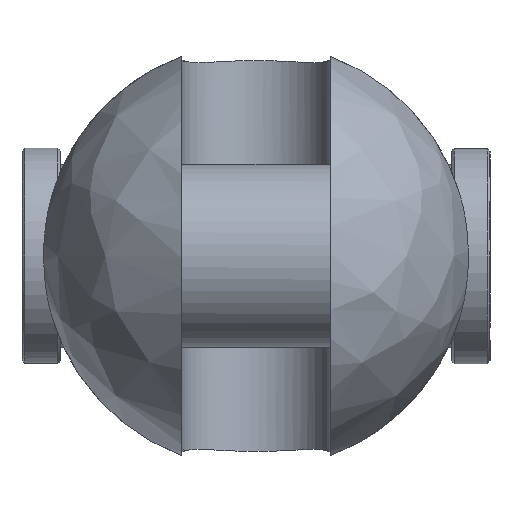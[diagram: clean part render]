
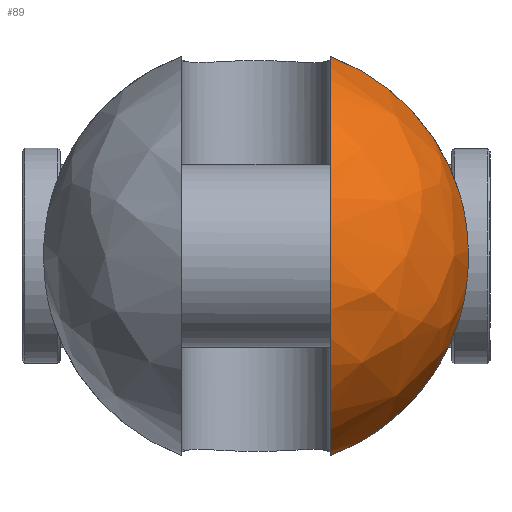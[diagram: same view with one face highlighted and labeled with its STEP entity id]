
A CAD part, left-side view. The second image highlights one B-rep face of the part: STEP entity #89.
In plain terms, the highlighted free-form (B-spline) face has degree [2, 2] with [9, 5] control points.
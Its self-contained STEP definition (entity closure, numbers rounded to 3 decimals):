
#89=ADVANCED_FACE('',(#164),#1306,.T.);
#164=FACE_OUTER_BOUND('',#249,.T.);
#249=EDGE_LOOP('',(#583,#584,#585,#586));
#583=ORIENTED_EDGE('',*,*,#809,.T.);
#584=ORIENTED_EDGE('',*,*,#835,.F.);
#585=ORIENTED_EDGE('',*,*,#847,.T.);
#586=ORIENTED_EDGE('',*,*,#827,.F.);
#809=EDGE_CURVE('',#1192,#1191,#1045,.T.);
#827=EDGE_CURVE('',#1192,#1204,#1055,.T.);
#835=EDGE_CURVE('',#1211,#1191,#1056,.T.);
#847=EDGE_CURVE('',#1211,#1204,#963,.T.);
#963=B_SPLINE_CURVE_WITH_KNOTS('',3,(#3120,#3121,#3122,#3123,#3124,#3125,
#3126,#3127,#3128,#3129,#3130,#3131,#3132,#3133),.UNSPECIFIED.,.F.,.F.,
(4,2,2,2,2,2,4),(0.,1.858,6.614,11.369,
16.125,20.881,22.739),.UNSPECIFIED.);
#1045=(
BOUNDED_CURVE()
B_SPLINE_CURVE(2,(#2904,#2905,#2906,#2907,#2908),.UNSPECIFIED.,.F.,.F.)
B_SPLINE_CURVE_WITH_KNOTS((3,2,3),(-113.272,-56.636,0.),
 .UNSPECIFIED.)
CURVE()
GEOMETRIC_REPRESENTATION_ITEM()
RATIONAL_B_SPLINE_CURVE((1.,0.707,1.,0.707,1.))
REPRESENTATION_ITEM('')
);
#1055=(
BOUNDED_CURVE()
B_SPLINE_CURVE(2,(#2990,#2991,#2992),.UNSPECIFIED.,.F.,.F.)
B_SPLINE_CURVE_WITH_KNOTS((3,3),(0.,35.864),.UNSPECIFIED.)
CURVE()
GEOMETRIC_REPRESENTATION_ITEM()
RATIONAL_B_SPLINE_CURVE((1.,0.893,1.))
REPRESENTATION_ITEM('')
);
#1056=(
BOUNDED_CURVE()
B_SPLINE_CURVE(2,(#3047,#3048,#3049),.UNSPECIFIED.,.F.,.F.)
B_SPLINE_CURVE_WITH_KNOTS((3,3),(0.,35.864),.UNSPECIFIED.)
CURVE()
GEOMETRIC_REPRESENTATION_ITEM()
RATIONAL_B_SPLINE_CURVE((1.,0.893,1.))
REPRESENTATION_ITEM('')
);
#1191=VERTEX_POINT('',#2837);
#1192=VERTEX_POINT('',#2838);
#1204=VERTEX_POINT('',#2850);
#1211=VERTEX_POINT('',#2857);
#1306=(
BOUNDED_SURFACE()
B_SPLINE_SURFACE(2,2,((#2445,#2446,#2447,#2448,#2449),(#2450,#2451,#2452,
#2453,#2454),(#2455,#2456,#2457,#2458,#2459),(#2460,#2461,#2462,#2463,#2464),
(#2465,#2466,#2467,#2468,#2469),(#2470,#2471,#2472,#2473,#2474),(#2475,
#2476,#2477,#2478,#2479),(#2480,#2481,#2482,#2483,#2484),(#2485,#2486,#2487,
#2488,#2489)),.UNSPECIFIED.,.T.,.F.,.F.)
B_SPLINE_SURFACE_WITH_KNOTS((3,2,2,2,3),(3,2,3),(0.,60.476,120.951,
181.427,241.903),(0.,60.476,120.951),
 .UNSPECIFIED.)
GEOMETRIC_REPRESENTATION_ITEM()
RATIONAL_B_SPLINE_SURFACE(((1.,0.707,1.,0.707,1.),
(0.707,0.5,0.707,0.5,0.707),(1.,0.707,
1.,0.707,1.),(0.707,0.5,0.707,0.5,0.707),
(1.,0.707,1.,0.707,1.),(0.707,0.5,0.707,
0.5,0.707),(1.,0.707,1.,0.707,1.),(0.707,
0.5,0.707,0.5,0.707),(1.,0.707,1.,0.707,
1.)))
REPRESENTATION_ITEM('')
SURFACE()
);
#2445=CARTESIAN_POINT('',(-56.,0.,0.));
#2446=CARTESIAN_POINT('',(-56.,38.5,0.));
#2447=CARTESIAN_POINT('',(-17.5,38.5,0.));
#2448=CARTESIAN_POINT('',(21.,38.5,0.));
#2449=CARTESIAN_POINT('',(21.,0.,0.));
#2450=CARTESIAN_POINT('',(-56.,0.,0.));
#2451=CARTESIAN_POINT('',(-56.,38.5,38.5));
#2452=CARTESIAN_POINT('',(-17.5,38.5,38.5));
#2453=CARTESIAN_POINT('',(21.,38.5,38.5));
#2454=CARTESIAN_POINT('',(21.,0.,0.));
#2455=CARTESIAN_POINT('',(-56.,0.,0.));
#2456=CARTESIAN_POINT('',(-56.,0.,38.5));
#2457=CARTESIAN_POINT('',(-17.5,0.,38.5));
#2458=CARTESIAN_POINT('',(21.,0.,38.5));
#2459=CARTESIAN_POINT('',(21.,0.,0.));
#2460=CARTESIAN_POINT('',(-56.,0.,0.));
#2461=CARTESIAN_POINT('',(-56.,-38.5,38.5));
#2462=CARTESIAN_POINT('',(-17.5,-38.5,38.5));
#2463=CARTESIAN_POINT('',(21.,-38.5,38.5));
#2464=CARTESIAN_POINT('',(21.,0.,0.));
#2465=CARTESIAN_POINT('',(-56.,0.,0.));
#2466=CARTESIAN_POINT('',(-56.,-38.5,0.));
#2467=CARTESIAN_POINT('',(-17.5,-38.5,0.));
#2468=CARTESIAN_POINT('',(21.,-38.5,0.));
#2469=CARTESIAN_POINT('',(21.,0.,0.));
#2470=CARTESIAN_POINT('',(-56.,0.,0.));
#2471=CARTESIAN_POINT('',(-56.,-38.5,-38.5));
#2472=CARTESIAN_POINT('',(-17.5,-38.5,-38.5));
#2473=CARTESIAN_POINT('',(21.,-38.5,-38.5));
#2474=CARTESIAN_POINT('',(21.,0.,0.));
#2475=CARTESIAN_POINT('',(-56.,0.,0.));
#2476=CARTESIAN_POINT('',(-56.,0.,-38.5));
#2477=CARTESIAN_POINT('',(-17.5,0.,-38.5));
#2478=CARTESIAN_POINT('',(21.,0.,-38.5));
#2479=CARTESIAN_POINT('',(21.,0.,0.));
#2480=CARTESIAN_POINT('',(-56.,0.,0.));
#2481=CARTESIAN_POINT('',(-56.,38.5,-38.5));
#2482=CARTESIAN_POINT('',(-17.5,38.5,-38.5));
#2483=CARTESIAN_POINT('',(21.,38.5,-38.5));
#2484=CARTESIAN_POINT('',(21.,0.,0.));
#2485=CARTESIAN_POINT('',(-56.,0.,0.));
#2486=CARTESIAN_POINT('',(-56.,38.5,0.));
#2487=CARTESIAN_POINT('',(-17.5,38.5,0.));
#2488=CARTESIAN_POINT('',(21.,38.5,0.));
#2489=CARTESIAN_POINT('',(21.,0.,0.));
#2837=CARTESIAN_POINT('',(-17.5,-13.5,-36.056));
#2838=CARTESIAN_POINT('',(-17.5,-13.5,36.056));
#2850=CARTESIAN_POINT('',(-17.5,-36.99,10.677));
#2857=CARTESIAN_POINT('',(-17.5,-36.99,-10.677));
#2904=CARTESIAN_POINT('',(-17.5,-13.5,36.056));
#2905=CARTESIAN_POINT('',(-53.556,-13.5,36.056));
#2906=CARTESIAN_POINT('',(-53.556,-13.5,0.));
#2907=CARTESIAN_POINT('',(-53.556,-13.5,-36.056));
#2908=CARTESIAN_POINT('',(-17.5,-13.5,-36.056));
#2990=CARTESIAN_POINT('',(-17.5,-13.5,36.056));
#2991=CARTESIAN_POINT('',(-17.5,-31.623,29.27));
#2992=CARTESIAN_POINT('',(-17.5,-36.99,10.677));
#3047=CARTESIAN_POINT('',(-17.5,-36.99,-10.677));
#3048=CARTESIAN_POINT('',(-17.5,-31.623,-29.27));
#3049=CARTESIAN_POINT('',(-17.5,-13.5,-36.056));
#3120=CARTESIAN_POINT('',(-17.5,-36.99,-10.677));
#3121=CARTESIAN_POINT('',(-17.817,-37.14,-10.158));
#3122=CARTESIAN_POINT('',(-18.112,-37.278,-9.623));
#3123=CARTESIAN_POINT('',(-19.077,-37.73,-7.668));
#3124=CARTESIAN_POINT('',(-19.613,-37.977,-6.168));
#3125=CARTESIAN_POINT('',(-20.325,-38.303,-3.101));
#3126=CARTESIAN_POINT('',(-20.5,-38.383,-1.534));
#3127=CARTESIAN_POINT('',(-20.5,-38.383,1.534));
#3128=CARTESIAN_POINT('',(-20.325,-38.303,3.101));
#3129=CARTESIAN_POINT('',(-19.613,-37.977,6.168));
#3130=CARTESIAN_POINT('',(-19.077,-37.73,7.668));
#3131=CARTESIAN_POINT('',(-18.112,-37.278,9.623));
#3132=CARTESIAN_POINT('',(-17.817,-37.14,10.158));
#3133=CARTESIAN_POINT('',(-17.5,-36.99,10.677));
